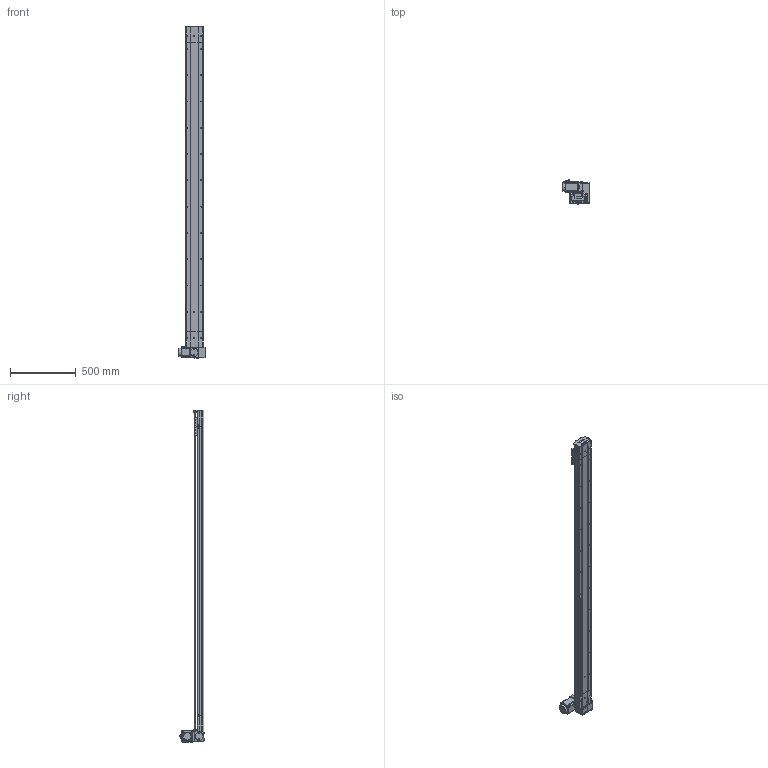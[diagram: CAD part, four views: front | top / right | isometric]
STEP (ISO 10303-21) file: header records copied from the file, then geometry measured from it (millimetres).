
FILE_DESCRIPTION (( 'STEP AP214' ), '1' );
FILE_NAME ('D14 TBH LT S2200.STEP', '2010-06-29T14:21:33', ( 'Conseil Régional Haute-Normandie' ), ( 'Conseil Régional Haute-Normandie' ), 'SwSTEP 2.0', 'SolidWorks 2010', '' );
FILE_SCHEMA (( 'AUTOMOTIVE_DESIGN' ));
Length unit declared in the file: millimetre
Products named in the file (39): Cache arbre_Default; vis M5 L16_Default; Moteur motionking 90BLDC100A-640; couvercle D14 head_Default; couroie 2_Default; Couroie_Default; poulie tail_Default; vis M5 L8 90°_Default; corp head D14_Default; D14 TB H LT_Default; couvercle D14_Default; poulie head_Default; Arbre+rail head D14; plaque de  bout head D14 LT_Default; corps 90BLDC100A-640; avant 90BLDC100A-640; Plaque racord D14_Default; Conecteur_Default; Conecteur2_Default; codeur 90BLDC100-640; Arbre+rail tail D14; Cache_Default; renvoi LH_Default; vis M5 L5_Default; guide D14; Cvis M5 L70_Default; Vis M5 L16-2_Default; Chariot D14; chariot D14B_Default; vis M5 L12_Default; tete d''axe haut D14; plaque de  bout tail D14_Default; corpl tail D14_Default; Tail D14B_Default; couvercle D14 course L2200_Default; Rail + couroie D14 Course 2200 ; corpl 2200_Default; D14 couroie L2200_Default; D14 TBH LT S2200
Assembly tree (68 placements, depth 4):
  D14 TBH LT S2200
    Tail D14B_Default
      corpl tail D14_Default
      vis M5 L8 90°_Default  x2
      poulie tail_Default
      vis M5 L16_Default  x2
      Couroie_Default
      vis M5 L12_Default  x4
      plaque de  bout tail D14_Default
      tete d''axe haut D14
      Arbre+rail tail D14
      couvercle D14_Default
    D14 couroie L2200_Default
      couvercle D14 course L2200_Default
      Rail + couroie D14 Course 2200 
      corpl 2200_Default
    chariot D14B_Default
      guide D14  x2
      Chariot D14
      vis M5 L12_Default  x4
    D14 TB H LT_Default
      Plaque racord D14_Default
      vis M5 L12_Default  x12
      Vis M5 L16-2_Default  x4
      Moteur motionking 90BLDC100A-640
        avant 90BLDC100A-640
        Conecteur_Default
        corps 90BLDC100A-640
        codeur 90BLDC100-640
        Conecteur2_Default
      corp head D14_Default
      Cvis M5 L70_Default  x4
      couvercle D14 head_Default
      Cache arbre_Default
      plaque de  bout head D14 LT_Default
      poulie head_Default
      renvoi LH_Default
      vis M5 L5_Default  x2
      Arbre+rail head D14
      Cache_Default  x2
      couroie 2_Default
Bounding box: 207.2 x 189.1 x 2525.75 mm (x, y, z)
Volume: 9732372.1 mm3; surface area: 3457832.2 mm2
Topology: 92 solids, 92 shells, 2709 faces, 6611 edges, 4266 vertices
Faces by surface type: plane 1609, cylinder 787, bspline 136, torus 89, cone 84, sphere 4
Entity records: 81512 total; most frequent: CARTESIAN_POINT 23925, ORIENTED_EDGE 10082, DIRECTION 9956, EDGE_CURVE 5041, VECTOR 3334, LINE 3334, VERTEX_POINT 3316, AXIS2_PLACEMENT_3D 3311
